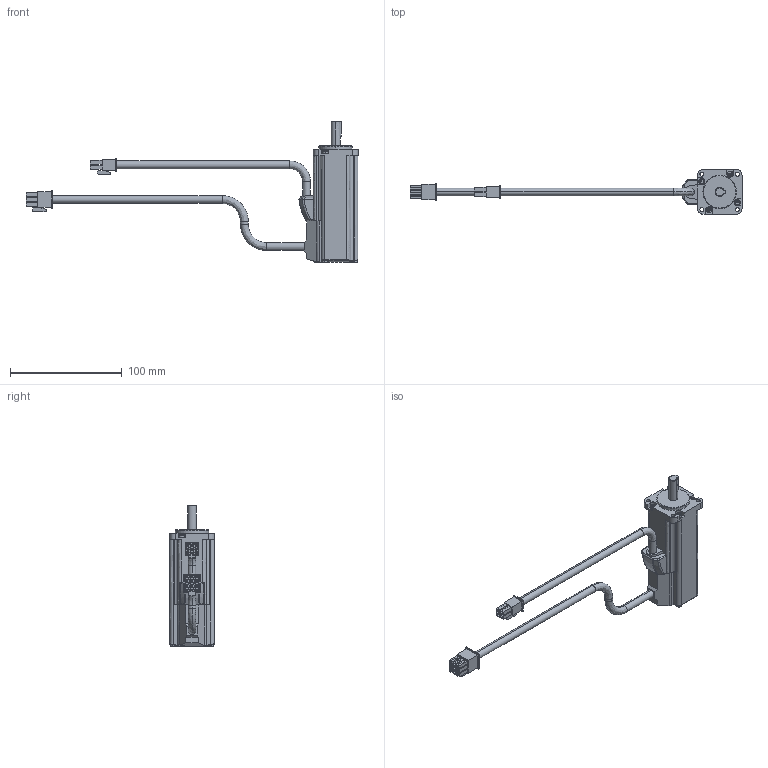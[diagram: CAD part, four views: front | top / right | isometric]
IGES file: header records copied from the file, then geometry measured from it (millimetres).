
Start section:  PTC IGES file: 10001042_rsmz-a8bq-bh_no-brake.igs
Global section: file name: 10001042_rsmz-a8bq-bh_no-brake.igs; native system: Pro/ENGINEER by Parametric Technology Corporation; preprocessor: 2004440; author: Administrator; organization: Unknown; date: 070829.201833; units: millimetre
Bounding box: 297.7 x 40 x 127.1 mm (x, y, z)
Volume: 173310 mm3; surface area: 35696.8 mm2
Topology: 1 solids, 1 shells, 466 faces, 1177 edges, 762 vertices
Faces by surface type: bspline 336, revolution 130
